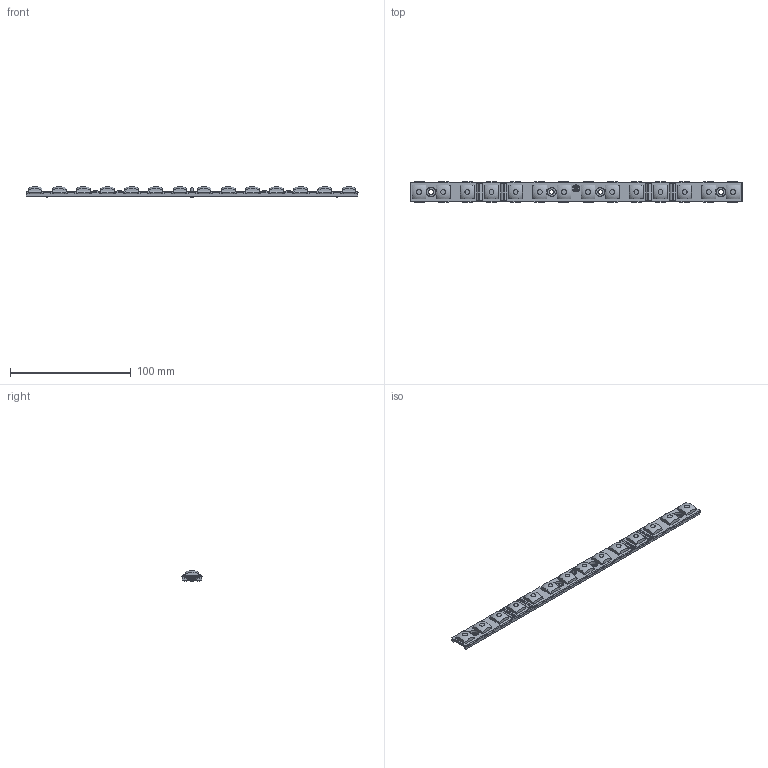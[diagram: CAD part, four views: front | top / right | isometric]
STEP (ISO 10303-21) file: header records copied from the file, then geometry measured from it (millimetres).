
FILE_DESCRIPTION(/* description */ ('Unknown'),/* implementation_level */ '2;1');
FILE_NAME(/* name */ '025-102-09',/* time_stamp */ '2025-05-08T16:11:40+02:00',/* author */ ('Unknown'),/* organization */ ('Unknown'),/* preprocessor_version */ 'ST-DEVELOPER v16.7',/* originating_system */ 'Solid Edge',/* authorisation */ 'Unknown');
FILE_SCHEMA (('AUTOMOTIVE_DESIGN {1 0 10303 214 3 1 1}'));
Length unit declared in the file: millimetre
Products named in the file (1): 025-102-09
Bounding box: 275 x 16.88 x 8.4 mm (x, y, z)
Volume: 17146.6 mm3; surface area: 15285.7 mm2
Topology: 5 solids, 5 shells, 1157 faces, 2982 edges, 1846 vertices
Faces by surface type: plane 511, cylinder 221, cone 218, bspline 108, sphere 60, torus 39
Full cylindrical faces by diameter (mm): 5.5 x1, 8.469 x12
Entity records: 46011 total; most frequent: CARTESIAN_POINT 9998, ORIENTED_EDGE 5678, DIRECTION 5182, EDGE_CURVE 2839, AXIS2_PLACEMENT_3D 2033, VERTEX_POINT 1819, EDGE_LOOP 1292, FACE_BOUND 1292
